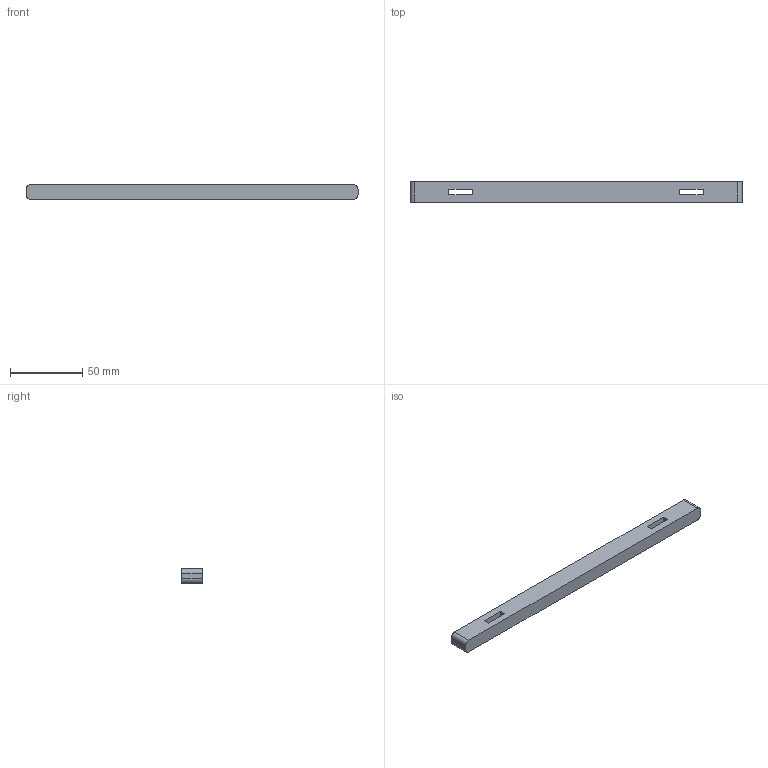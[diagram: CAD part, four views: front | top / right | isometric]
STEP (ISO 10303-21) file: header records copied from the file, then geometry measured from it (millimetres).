
FILE_DESCRIPTION(('FreeCAD Model'),'2;1');
FILE_NAME('Open CASCADE Shape Model','2026-10-14T02:29:17',('FreeCAD'),( 'FreeCAD'),'Open CASCADE STEP processor 7.8','FreeCAD','Unknown');
FILE_SCHEMA(('AUTOMOTIVE_DESIGN { 1 0 10303 214 1 1 1 1 }'));
Length unit declared in the file: millimetre
Products named in the file (1): Open CASCADE STEP translator 7.8 84
Bounding box: 230 x 14 x 10 mm (x, y, z)
Volume: 30811.8 mm3; surface area: 11776.4 mm2
Topology: 1 solids, 1 shells, 18 faces, 48 edges, 32 vertices
Faces by surface type: plane 14, cylinder 4
Entity records: 578 total; most frequent: CARTESIAN_POINT 99, ORIENTED_EDGE 96, DIRECTION 94, EDGE_CURVE 48, LINE 40, VECTOR 40, VERTEX_POINT 32, AXIS2_PLACEMENT_3D 27
